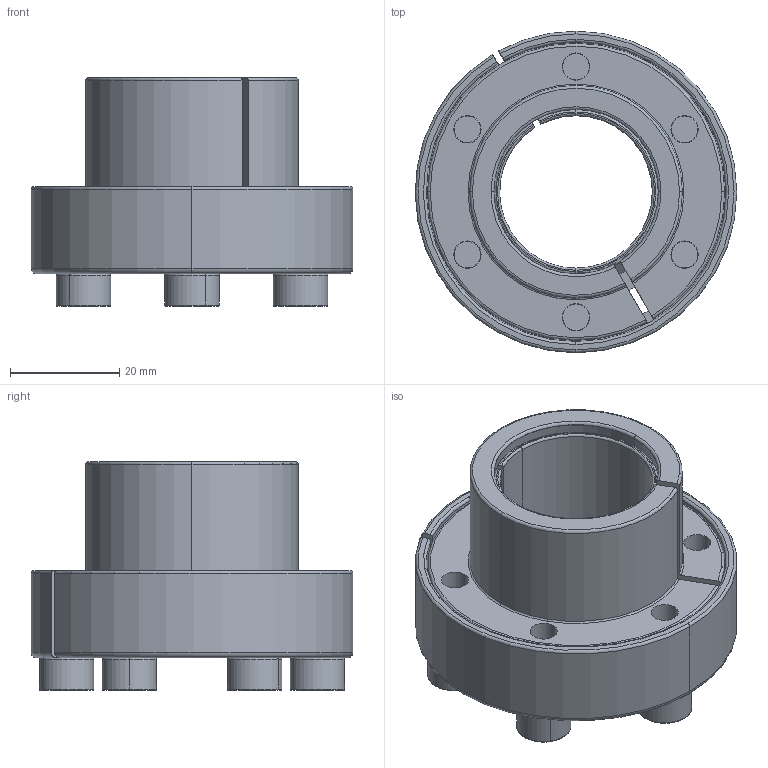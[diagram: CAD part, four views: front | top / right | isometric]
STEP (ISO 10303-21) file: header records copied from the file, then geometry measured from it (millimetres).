
FILE_DESCRIPTION (( 'STEP AP203' ), '1' );
FILE_NAME ('SAPL-C-28-39.STEP', '2013-07-24T04:29:04', ( 'MYCOM' ), ( '' ), 'SwSTEP 2.0', 'SolidWorks 2012', '' );
FILE_SCHEMA (( 'CONFIG_CONTROL_DESIGN' ));
Length unit declared in the file: millimetre
Products named in the file (1): SAPL-C-28-39
Bounding box: 59 x 59 x 42 mm (x, y, z)
Volume: 41654.2 mm3; surface area: 23022.5 mm2
Topology: 1 solids, 1 shells, 316 faces, 756 edges, 452 vertices
Faces by surface type: plane 103, cylinder 90, torus 72, cone 51
Entity records: 9301 total; most frequent: DIRECTION 1746, CARTESIAN_POINT 1671, ORIENTED_EDGE 1488, EDGE_CURVE 744, AXIS2_PLACEMENT_3D 719, VERTEX_POINT 452, CIRCLE 402, EDGE_LOOP 358
